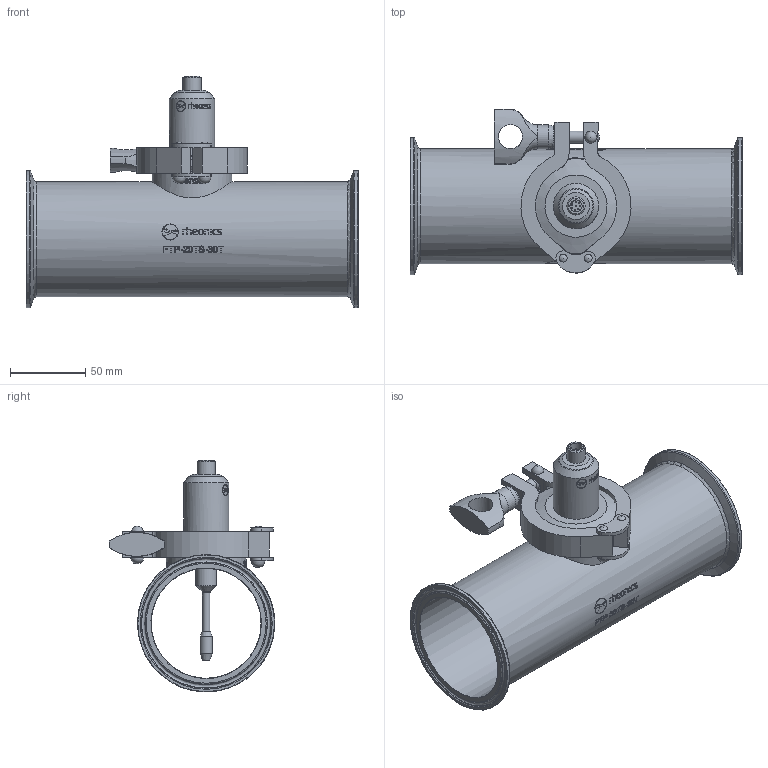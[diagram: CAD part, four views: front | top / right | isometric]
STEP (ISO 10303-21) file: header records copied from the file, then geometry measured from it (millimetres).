
FILE_DESCRIPTION(/* description */ ('Unknown'),/* implementation_level */ '2;1');
FILE_NAME(/* name */ 'SRV-FTP-20TS-30T',/* time_stamp */ '2024-12-26T12:25:02-05:00',/* author */ ('Unknown'),/* organization */ ('Unknown'),/* preprocessor_version */ 'ST-DEVELOPER v16.7',/* originating_system */ 'Solid Edge',/* authorisation */ 'Unknown');
FILE_SCHEMA (('AUTOMOTIVE_DESIGN {1 0 10303 214 3 1 1}'));
Length unit declared in the file: millimetre
Products named in the file (5): SRV-FTP-20TS-30T; FTP-20TS-30T; TC-20T-Seal; SRV-HD-X3-20T; TC_2inch_Seal_Clamp
Assembly tree (4 placements, depth 2):
  SRV-FTP-20TS-30T
    FTP-20TS-30T
    TC-20T-Seal
    SRV-HD-X3-20T
    TC_2inch_Seal_Clamp
Bounding box: 220 x 109.79 x 153.66 mm (x, y, z)
Volume: 195937.1 mm3; surface area: 152842.8 mm2
Topology: 4 solids, 4 shells, 777 faces, 1979 edges, 1293 vertices
Faces by surface type: bspline 301, plane 248, cylinder 149, torus 39, cone 25, sphere 15
Full cylindrical faces by diameter (mm): 0.8 x8, 5.019 x1, 7.938 x1, 8 x2, 12 x1, 13.9 x1, 15.873 x1, 16 x1, 30 x1, 50 x1, 50.2 x1, 53 x1, 64 x3, 72.9 x1, 76.2 x1, 91 x2
Entity records: 56916 total; most frequent: CARTESIAN_POINT 35750, ORIENTED_EDGE 3636, DIRECTION 2512, EDGE_CURVE 1818, VERTEX_POINT 1257, EDGE_LOOP 1001, FACE_BOUND 1001, AXIS2_PLACEMENT_3D 888
